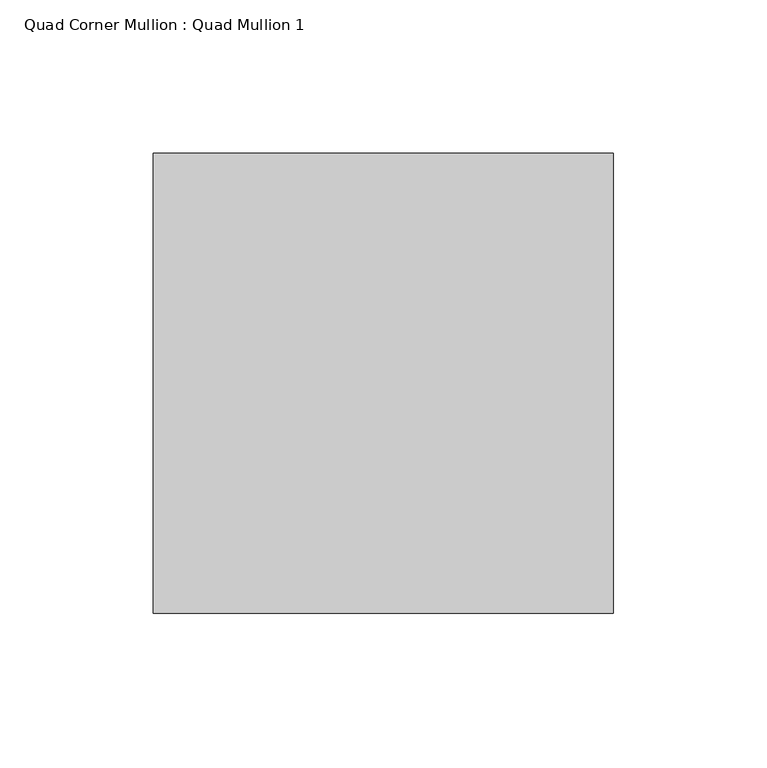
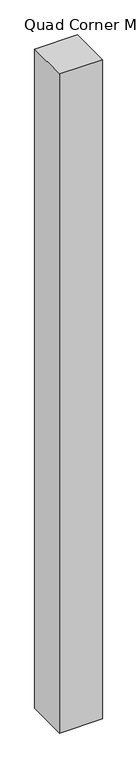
"""IFC4 building model written with IfcOpenShell, lengths in millimetres: member geometry, Quad Corner Mullion : Quad Mullion 1."""

from ifc_helpers import new_model, si_unit, frame, origin, place, context, project, spatial, polyline, outline, extrude, source, transform, mapped, element, save


def quad_corner_mullion_quad_mullion_1_c8c6a4dc(model_context):
    return source(origin(), model_context, "Body", "SweptSolid", [
        extrude(outline(polyline([(75.0, -75.0), (-75.0, -75.0), (-75.0, 75.0), (75.0, 75.0), (75.0, -75.0)])), frame((0.0, 0.0, -2438.4), z_axis=(0.0, 0.0, 1.0), x_axis=(1.0, 0.0, 0.0)), (0.0, 0.0, 1.0), 2438.4),
    ])


if __name__ == "__main__":
    model = new_model("IFC4")
    model_context = context("Model", 3, world=origin())
    ifc_project = project(units=[si_unit("LENGTHUNIT", "METRE", prefix="MILLI")], contexts=[model_context])
    site = spatial("IfcSite", under=ifc_project)
    building = spatial("IfcBuilding", under=site)
    placement = place(None, origin())
    quad_corner_mullion_quad_mullion_1_shape = quad_corner_mullion_quad_mullion_1_c8c6a4dc(model_context)
    element("IfcMember", 1, ObjectType="Quad Corner Mullion : Quad Mullion 1", at=placement, inside=building, context=model_context, shape_type="MappedRepresentation", body=[
        mapped(quad_corner_mullion_quad_mullion_1_shape, transform((0.0, 0.0, 0.0), x_axis=(1.0, 0.0, 0.0), y_axis=(0.0, 1.0, 0.0), z_axis=(0.0, 0.0, 1.0))),
    ])
    save(model, "model.ifc")
